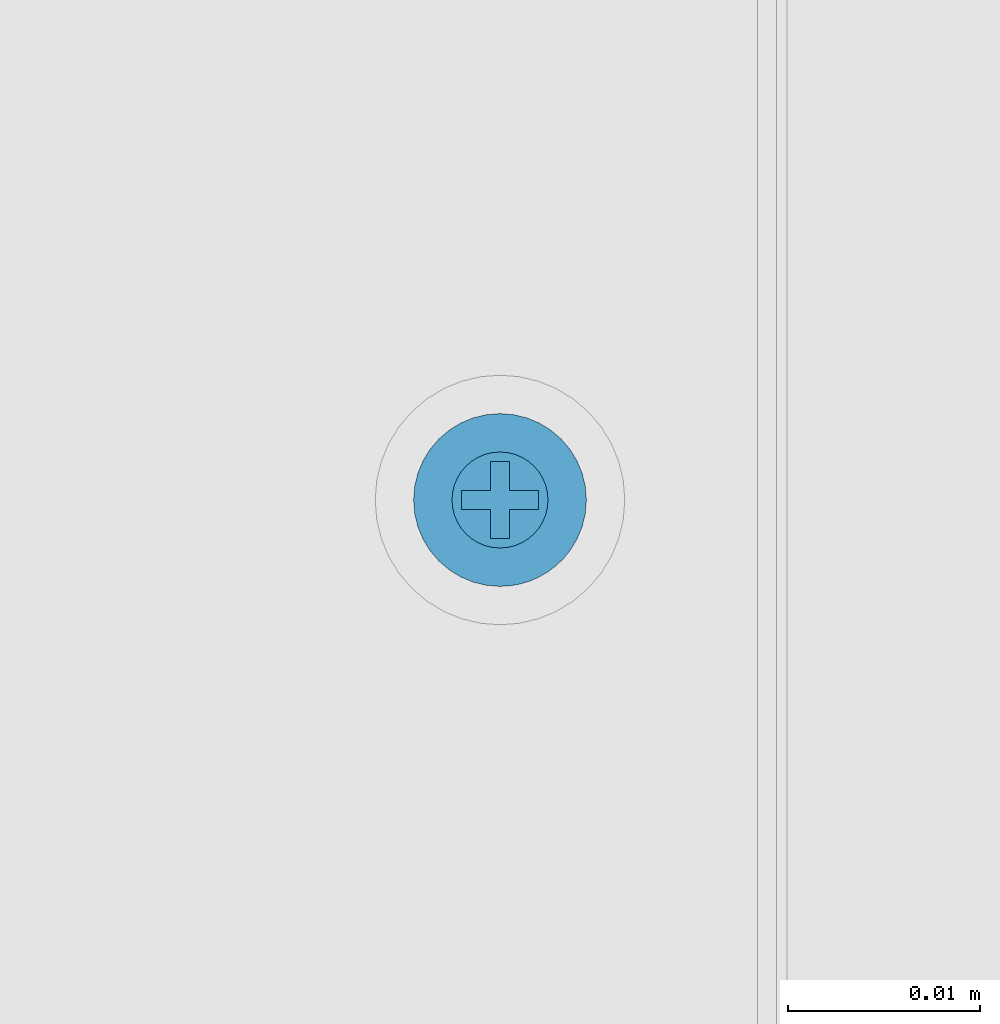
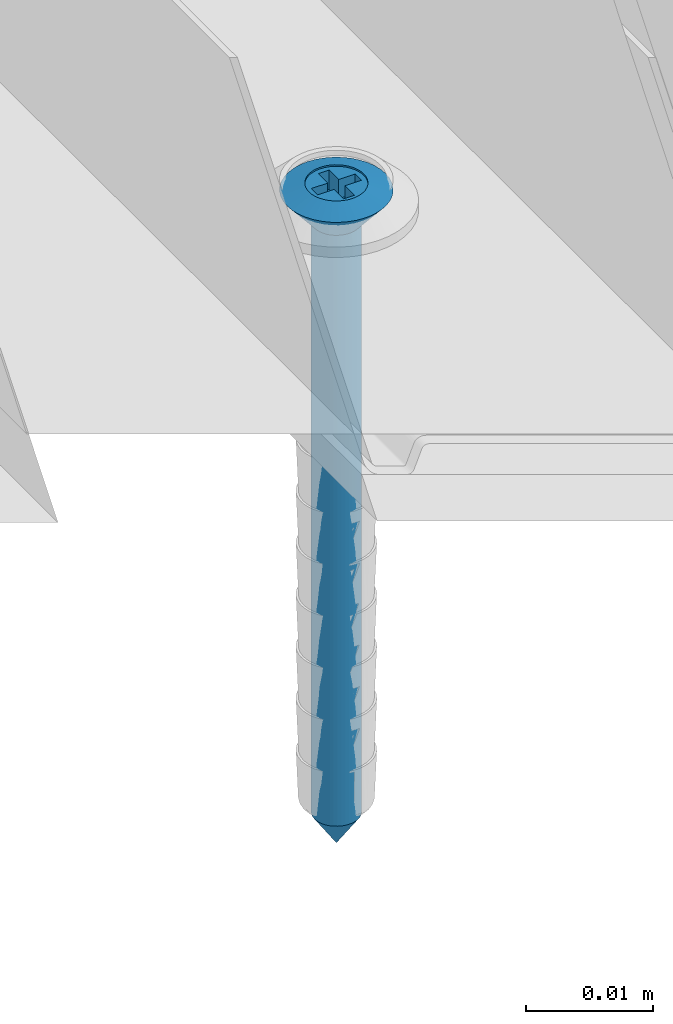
# One storey, part 27 of 56: 1 wall.
"""IFC2X3 building model written with IfcOpenShell, lengths in millimetres."""

from ifc_helpers import new_model, entity, si_unit, converted_unit, direction, frame, origin, origin_with_axes, place, context, project, spatial, faceted_brep, element, save


model = new_model("IFC2X3")

# Units and contexts
model_context = context("Model", 3, precision=1e-05, world=origin(), true_north=direction((0.0, 1.0, 0.0)))
ifc_project = project(units=[si_unit("LENGTHUNIT", "METRE", prefix="MILLI"), si_unit("AREAUNIT", "SQUARE_METRE"), si_unit("VOLUMEUNIT", "CUBIC_METRE"), converted_unit("PLANEANGLEUNIT", "DEGREE", entity("IfcPlaneAngleMeasure", 0.01745), si_unit("PLANEANGLEUNIT", "RADIAN"), dimensions=[0, 0, 0, 0, 0, 0, 0]), si_unit("SOLIDANGLEUNIT", "STERADIAN"), si_unit("MASSUNIT", "GRAM"), si_unit("TIMEUNIT", "SECOND"), si_unit("THERMODYNAMICTEMPERATUREUNIT", "DEGREE_CELSIUS"), si_unit("LUMINOUSINTENSITYUNIT", "LUMEN")], contexts=[model_context])

# Site, building, storey
site_placement = place(None, origin_with_axes())
site = spatial("IfcSite", under=ifc_project, at=site_placement, Name="Default Site", CompositionType="ELEMENT")
building_placement = place(site_placement, origin_with_axes())
building = spatial("IfcBuilding", under=site, at=building_placement, Name="Default Building", CompositionType="ELEMENT")
storey_placement = place(building_placement, origin_with_axes())
storey = spatial("IfcBuildingStorey", under=building, at=storey_placement, Name="Default Building Storey", CompositionType="ELEMENT", Elevation=0.0)

# Wall
wall_placement = place(storey_placement, frame((2345.823797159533, 6256.123979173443, 10.38402578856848), z_axis=(-7.620176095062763e-14, -6.858158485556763e-13, 1.0), x_axis=(-1.0, -9.71445146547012e-17, -7.620176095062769e-14)))
element("IfcWall", 1, at=wall_placement, inside=storey, Name="Kołek rozporowy min. fi 6", context=model_context, shape_type="Brep", body=[
    faceted_brep([(-1438.31414949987, 3453.283223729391, -0.4642567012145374), (-1435.814149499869, 3453.283223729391, -3.464256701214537), (-1435.78952618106, 3452.97035479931, -3.464256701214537), (-1438.258747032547, 3452.57926863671, -0.4642567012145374), (-1435.71626253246, 3452.665189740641, -3.464256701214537), (-1438.093903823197, 3451.892647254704, -0.4642567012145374), (-1435.596162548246, 3452.375242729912, -3.464256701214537), (-1437.823678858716, 3451.240266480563, -0.4642567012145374), (-1435.432183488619, 3452.107653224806, -3.464256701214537), (-1437.454725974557, 3450.638190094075, -0.4642567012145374), (-1435.228363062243, 3451.869010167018, -3.464256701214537), (-1436.996130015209, 3450.101243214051, -0.4642567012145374), (-1434.989720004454, 3451.665189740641, -3.464256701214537), (-1436.459183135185, 3449.642647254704, -0.4642567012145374), (-1434.722130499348, 3451.501210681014, -3.464256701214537), (-1435.857106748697, 3449.273694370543, -0.4642567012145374), (-1434.432183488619, 3451.381110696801, -3.464256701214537), (-1435.204725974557, 3449.003469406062, -0.4642567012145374), (-1434.12701842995, 3451.307847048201, -3.464256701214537), (-1434.51810459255, 3448.838626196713, -0.4642567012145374), (-1433.814149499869, 3451.283223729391, -3.464256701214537), (-1433.814149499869, 3448.783223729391, -0.4642567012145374), (-1433.501280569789, 3451.307847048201, -3.464256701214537), (-1433.110194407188, 3448.838626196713, -0.4642567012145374), (-1433.19611551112, 3451.381110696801, -3.464256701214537), (-1432.423573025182, 3449.003469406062, -0.4642567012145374), (-1432.906168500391, 3451.501210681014, -3.464256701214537), (-1431.771192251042, 3449.273694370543, -0.4642567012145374), (-1432.638578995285, 3451.665189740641, -3.464256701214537), (-1431.169115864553, 3449.642647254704, -0.4642567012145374), (-1432.399935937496, 3451.869010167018, -3.464256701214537), (-1430.63216898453, 3450.101243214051, -0.4642567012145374), (-1432.196115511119, 3452.107653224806, -3.464256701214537), (-1430.173573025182, 3450.638190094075, -0.4642567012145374), (-1432.032136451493, 3452.375242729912, -3.464256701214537), (-1429.804620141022, 3451.240266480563, -0.4642567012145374), (-1431.912036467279, 3452.665189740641, -3.464256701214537), (-1429.534395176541, 3451.892647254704, -0.4642567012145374), (-1431.838772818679, 3453.596092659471, -3.464256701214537), (-1429.369551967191, 3453.987178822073, -0.4642567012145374), (-1429.314149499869, 3453.283223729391, -0.4642567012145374), (-1431.81414949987, 3453.283223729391, -3.464256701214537), (-1429.369551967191, 3452.57926863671, -0.4642567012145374), (-1431.838772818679, 3452.97035479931, -3.464256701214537), (-1431.912036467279, 3453.901257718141, -3.464256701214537), (-1429.534395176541, 3454.673800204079, -0.4642567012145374), (-1432.032136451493, 3454.19120472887, -3.464256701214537), (-1429.804620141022, 3455.326180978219, -0.4642567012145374), (-1432.196115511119, 3454.458794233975, -3.464256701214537), (-1430.173573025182, 3455.928257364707, -0.4642567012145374), (-1432.399935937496, 3454.697437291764, -3.464256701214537), (-1430.63216898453, 3456.465204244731, -0.4642567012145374), (-1432.638578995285, 3454.901257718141, -3.464256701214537), (-1431.169115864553, 3456.923800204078, -0.4642567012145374), (-1432.906168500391, 3455.065236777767, -3.464256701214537), (-1431.771192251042, 3457.292753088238, -0.4642567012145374), (-1433.19611551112, 3455.185336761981, -3.464256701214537), (-1432.423573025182, 3457.562978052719, -0.4642567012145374), (-1433.501280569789, 3455.258600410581, -3.464256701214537), (-1433.110194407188, 3457.727821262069, -0.4642567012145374), (-1433.814149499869, 3455.283223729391, -3.464256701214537), (-1433.814149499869, 3457.783223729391, -0.4642567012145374), (-1434.34306778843, 3457.752031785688, -0.4642567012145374), (-1434.12701842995, 3455.258600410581, -3.464256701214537), (-1434.432183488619, 3455.185336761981, -3.464256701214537), (-1434.864653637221, 3457.658888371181, -0.4642567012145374), (-1435.371676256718, 3457.505084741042, -0.4642567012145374), (-1434.722130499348, 3455.065236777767, -3.464256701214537), (-1435.857106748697, 3457.292753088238, -0.4642567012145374), (-1434.989720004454, 3454.901257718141, -3.464256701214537), (-1435.228363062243, 3454.697437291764, -3.464256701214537), (-1436.314215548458, 3457.024836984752, -0.4642567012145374), (-1436.736665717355, 3456.705050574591, -0.4642567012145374), (-1437.11860079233, 3456.337827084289, -0.4642567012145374), (-1437.454725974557, 3455.928257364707, -0.4642567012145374), (-1435.432183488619, 3454.458794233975, -3.464256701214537), (-1435.596162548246, 3454.19120472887, -3.464256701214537), (-1437.823678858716, 3455.326180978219, -0.4642567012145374), (-1435.71626253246, 3453.901257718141, -3.464256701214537), (-1438.093903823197, 3454.673800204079, -0.4642567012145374), (-1435.78952618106, 3453.596092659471, -3.464256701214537), (-1438.258747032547, 3453.987178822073, -0.4642567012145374), (-1434.205235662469, 3455.752444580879, 0.2007375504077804), (-1433.814149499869, 3455.78322372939, 0.2007375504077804), (-1434.586691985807, 3455.660865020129, 0.2007375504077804), (-1434.949125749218, 3455.510740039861, 0.2007375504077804), (-1435.283612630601, 3455.305766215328, 0.2007375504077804), (-1435.581916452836, 3455.050990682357, 0.2007375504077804), (-1435.836691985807, 3454.752686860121, 0.2007375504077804), (-1436.04166581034, 3454.41819997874, 0.2007375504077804), (-1436.191790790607, 3454.055766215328, 0.2007375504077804), (-1436.283370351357, 3453.674309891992, 0.2007375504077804), (-1436.314149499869, 3453.283223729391, 0.2007375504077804), (-1436.283370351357, 3452.892137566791, 0.2007375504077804), (-1436.191790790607, 3452.510681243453, 0.2007375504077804), (-1436.04166581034, 3452.148247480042, 0.2007375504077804), (-1435.836691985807, 3451.81376059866, 0.200737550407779), (-1435.581916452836, 3451.515456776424, 0.2007375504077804), (-1435.283612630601, 3451.260681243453, 0.2007375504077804), (-1434.949125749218, 3451.05570741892, 0.2007375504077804), (-1434.586691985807, 3450.905582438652, 0.2007375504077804), (-1433.423063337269, 3450.814002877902, 0.2007375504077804), (-1433.814149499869, 3450.783223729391, 0.2007375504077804), (-1434.205235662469, 3450.814002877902, 0.2007375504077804), (-1433.041607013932, 3450.905582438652, 0.2007375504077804), (-1432.67917325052, 3451.05570741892, 0.2007375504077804), (-1432.344686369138, 3451.260681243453, 0.2007375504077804), (-1432.046382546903, 3451.515456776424, 0.2007375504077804), (-1431.791607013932, 3451.81376059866, 0.2007375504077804), (-1431.586633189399, 3452.148247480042, 0.2007375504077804), (-1431.436508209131, 3452.510681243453, 0.2007375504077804), (-1431.344928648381, 3452.892137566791, 0.2007375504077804), (-1431.314149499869, 3453.283223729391, 0.2007375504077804), (-1431.344928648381, 3453.674309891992, 0.2007375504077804), (-1431.436508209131, 3454.055766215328, 0.2007375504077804), (-1431.586633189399, 3454.41819997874, 0.2007375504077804), (-1431.791607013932, 3454.752686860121, 0.2007375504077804), (-1432.046382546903, 3455.050990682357, 0.2007375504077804), (-1432.344686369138, 3455.305766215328, 0.2007375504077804), (-1432.67917325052, 3455.510740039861, 0.2007375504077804), (-1433.041607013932, 3455.660865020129, 0.2007375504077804), (-1433.423063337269, 3455.752444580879, 0.2007375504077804), (-1433.814149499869, 3453.283223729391, -63.46425670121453), (-1435.789526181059, 3452.97035479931, -60.46425670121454), (-1435.814149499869, 3453.283223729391, -60.46425670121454), (-1435.716262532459, 3452.665189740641, -60.46425670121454), (-1435.596162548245, 3452.375242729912, -60.46425670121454), (-1435.432183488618, 3452.107653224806, -60.46425670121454), (-1435.228363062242, 3451.869010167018, -60.46425670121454), (-1434.989720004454, 3451.665189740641, -60.46425670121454), (-1434.722130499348, 3451.501210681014, -60.46425670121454), (-1434.432183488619, 3451.381110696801, -60.46425670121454), (-1434.127018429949, 3451.307847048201, -60.46425670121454), (-1433.814149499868, 3451.283223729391, -60.46425670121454), (-1433.501280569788, 3451.307847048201, -60.46425670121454), (-1433.196115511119, 3451.381110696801, -60.46425670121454), (-1432.90616850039, 3451.501210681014, -60.46425670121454), (-1432.638578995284, 3451.665189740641, -60.46425670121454), (-1432.399935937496, 3451.869010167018, -60.46425670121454), (-1432.196115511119, 3452.107653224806, -60.46425670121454), (-1432.032136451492, 3452.375242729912, -60.46425670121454), (-1431.912036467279, 3452.665189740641, -60.46425670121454), (-1431.838772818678, 3452.97035479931, -60.46425670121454), (-1431.814149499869, 3453.283223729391, -60.46425670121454), (-1431.838772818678, 3453.596092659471, -60.46425670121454), (-1431.912036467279, 3453.901257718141, -60.46425670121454), (-1432.032136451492, 3454.19120472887, -60.46425670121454), (-1432.196115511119, 3454.458794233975, -60.46425670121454), (-1432.399935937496, 3454.697437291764, -60.46425670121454), (-1432.638578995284, 3454.901257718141, -60.46425670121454), (-1432.90616850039, 3455.065236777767, -60.46425670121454), (-1433.196115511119, 3455.185336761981, -60.46425670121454), (-1433.501280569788, 3455.258600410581, -60.46425670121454), (-1433.814149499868, 3455.283223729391, -60.46425670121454), (-1434.127018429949, 3455.258600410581, -60.46425670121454), (-1434.432183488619, 3455.185336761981, -60.46425670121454), (-1434.722130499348, 3455.065236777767, -60.46425670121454), (-1434.989720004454, 3454.901257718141, -60.46425670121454), (-1435.228363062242, 3454.697437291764, -60.46425670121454), (-1435.432183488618, 3454.458794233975, -60.46425670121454), (-1435.596162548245, 3454.19120472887, -60.46425670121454), (-1435.716262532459, 3453.901257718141, -60.46425670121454), (-1435.789526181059, 3453.596092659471, -60.46425670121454), (-1435.814149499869, 3453.783223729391, 0.04999999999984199), (-1436.04166581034, 3454.41819997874, 0.04999999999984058), (-1436.191790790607, 3454.055766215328, 0.04999999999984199), (-1435.814149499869, 3452.783223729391, 0.04999999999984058), (-1434.314149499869, 3453.783223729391, 0.04999999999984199), (-1434.314149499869, 3455.28322372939, 0.04999999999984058), (-1433.314149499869, 3455.28322372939, 0.04999999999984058), (-1433.314149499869, 3453.783223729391, 0.04999999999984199), (-1431.814149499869, 3453.783223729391, 0.04999999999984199), (-1431.814149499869, 3452.783223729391, 0.04999999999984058), (-1433.314149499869, 3452.783223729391, 0.04999999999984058), (-1433.314149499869, 3451.283223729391, 0.04999999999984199), (-1434.314149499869, 3451.283223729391, 0.04999999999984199), (-1434.314149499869, 3452.783223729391, 0.04999999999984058), (-1436.283370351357, 3453.674309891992, 0.04999999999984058), (-1436.314149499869, 3453.283223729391, 0.04999999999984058), (-1436.283370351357, 3452.892137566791, 0.04999999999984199), (-1436.191790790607, 3452.510681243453, 0.04999999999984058), (-1436.04166581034, 3452.148247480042, 0.04999999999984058), (-1435.836691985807, 3451.81376059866, 0.04999999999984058), (-1435.581916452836, 3451.515456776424, 0.04999999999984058), (-1435.283612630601, 3451.260681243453, 0.04999999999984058), (-1434.949125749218, 3451.05570741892, 0.04999999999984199), (-1434.586691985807, 3450.905582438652, 0.04999999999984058), (-1434.205235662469, 3450.814002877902, 0.04999999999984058), (-1433.814149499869, 3450.783223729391, 0.04999999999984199), (-1433.423063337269, 3450.814002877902, 0.04999999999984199), (-1433.041607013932, 3450.905582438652, 0.04999999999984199), (-1432.67917325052, 3451.05570741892, 0.04999999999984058), (-1432.344686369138, 3451.260681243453, 0.04999999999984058), (-1432.046382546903, 3451.515456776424, 0.04999999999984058), (-1431.791607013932, 3451.81376059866, 0.04999999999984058), (-1431.586633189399, 3452.148247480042, 0.04999999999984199), (-1431.436508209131, 3452.510681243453, 0.04999999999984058), (-1431.344928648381, 3452.892137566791, 0.04999999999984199), (-1431.314149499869, 3453.283223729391, 0.04999999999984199), (-1431.344928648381, 3453.674309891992, 0.04999999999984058), (-1431.436508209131, 3454.055766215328, 0.04999999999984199), (-1431.586633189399, 3454.41819997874, 0.04999999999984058), (-1431.791607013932, 3454.752686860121, 0.04999999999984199), (-1432.046382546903, 3455.050990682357, 0.04999999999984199), (-1432.344686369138, 3455.305766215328, 0.04999999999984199), (-1432.67917325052, 3455.510740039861, 0.04999999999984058), (-1433.041607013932, 3455.660865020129, 0.04999999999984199), (-1433.423063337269, 3455.752444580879, 0.04999999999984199), (-1433.814149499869, 3455.78322372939, 0.04999999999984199), (-1434.205235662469, 3455.752444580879, 0.04999999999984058), (-1434.586691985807, 3455.660865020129, 0.04999999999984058), (-1434.949125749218, 3455.510740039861, 0.04999999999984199), (-1435.283612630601, 3455.305766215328, 0.04999999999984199), (-1435.581916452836, 3455.050990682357, 0.04999999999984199), (-1435.836691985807, 3454.752686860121, 0.04999999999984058), (-1434.314149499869, 3452.783223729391, -1.79926244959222), (-1434.314149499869, 3451.283223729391, -1.799262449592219), (-1433.314149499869, 3451.283223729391, -1.799262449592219), (-1433.314149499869, 3452.783223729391, -1.79926244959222), (-1431.81414949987, 3452.783223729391, -1.79926244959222), (-1431.81414949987, 3453.783223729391, -1.799262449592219), (-1433.314149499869, 3453.783223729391, -1.799262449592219), (-1433.314149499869, 3455.28322372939, -1.79926244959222), (-1434.314149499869, 3455.28322372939, -1.79926244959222), (-1434.314149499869, 3453.783223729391, -1.799262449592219), (-1435.814149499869, 3453.783223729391, -1.799262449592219), (-1435.814149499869, 3452.783223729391, -1.79926244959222)], [[[0, 1, 2, 3]], [[4, 5, 3, 2]], [[6, 7, 5, 4]], [[7, 6, 8, 9]], [[10, 11, 9, 8]], [[11, 10, 12, 13]], [[14, 15, 13, 12]], [[16, 17, 15, 14]], [[17, 16, 18, 19]], [[20, 21, 19, 18]], [[21, 20, 22, 23]], [[24, 25, 23, 22]], [[26, 27, 25, 24]], [[27, 26, 28, 29]], [[30, 31, 29, 28]], [[31, 30, 32, 33]], [[34, 35, 33, 32]], [[36, 37, 35, 34]], [[38, 39, 40, 41]], [[41, 40, 42, 43]], [[37, 36, 43, 42]], [[44, 45, 39, 38]], [[46, 47, 45, 44]], [[47, 46, 48, 49]], [[50, 51, 49, 48]], [[51, 50, 52, 53]], [[54, 55, 53, 52]], [[56, 57, 55, 54]], [[57, 56, 58, 59]], [[60, 61, 59, 58]], [[62, 61, 63]], [[61, 60, 63]], [[63, 64, 62]], [[64, 65, 62]], [[66, 65, 64]], [[64, 67, 66]], [[67, 68, 66]], [[69, 70, 71]], [[70, 72, 71]], [[71, 68, 69]], [[68, 67, 69]], [[70, 73, 72]], [[74, 73, 75]], [[73, 70, 75]], [[76, 77, 74, 75]], [[78, 79, 77, 76]], [[79, 78, 80, 81]], [[1, 0, 81, 80]], [[82, 83, 62]], [[83, 61, 62]], [[62, 65, 82]], [[65, 84, 82]], [[66, 68, 84]], [[68, 85, 84]], [[84, 65, 66]], [[86, 85, 71]], [[85, 68, 71]], [[72, 73, 87]], [[87, 86, 72]], [[86, 71, 72]], [[88, 87, 74]], [[87, 73, 74]], [[77, 89, 88, 74]], [[79, 90, 89, 77]], [[90, 79, 81, 91]], [[0, 92, 91, 81]], [[92, 0, 3, 93]], [[5, 94, 93, 3]], [[7, 95, 94, 5]], [[95, 7, 9, 96]], [[11, 97, 96, 9]], [[97, 11, 13, 98]], [[15, 99, 98, 13]], [[17, 100, 99, 15]], [[23, 101, 102, 21]], [[21, 102, 103, 19]], [[100, 17, 19, 103]], [[25, 104, 101, 23]], [[27, 105, 104, 25]], [[105, 27, 29, 106]], [[31, 107, 106, 29]], [[107, 31, 33, 108]], [[35, 109, 108, 33]], [[37, 110, 109, 35]], [[110, 37, 42, 111]], [[40, 112, 111, 42]], [[112, 40, 39, 113]], [[45, 114, 113, 39]], [[47, 115, 114, 45]], [[115, 47, 49, 116]], [[51, 117, 116, 49]], [[117, 51, 53, 118]], [[55, 119, 118, 53]], [[57, 120, 119, 55]], [[120, 57, 59, 121]], [[61, 83, 121, 59]], [[122, 123, 124]], [[122, 125, 123]], [[122, 126, 125]], [[127, 126, 122]], [[122, 128, 127]], [[129, 128, 122]], [[122, 130, 129]], [[122, 131, 130]], [[132, 131, 122]], [[122, 133, 132]], [[134, 133, 122]], [[122, 135, 134]], [[122, 136, 135]], [[137, 136, 122]], [[122, 138, 137]], [[139, 138, 122]], [[122, 140, 139]], [[122, 141, 140]], [[142, 141, 122]], [[122, 143, 142]], [[144, 143, 122]], [[122, 145, 144]], [[122, 146, 145]], [[147, 146, 122]], [[122, 148, 147]], [[149, 148, 122]], [[122, 150, 149]], [[122, 151, 150]], [[152, 151, 122]], [[122, 153, 152]], [[154, 153, 122]], [[122, 155, 154]], [[122, 156, 155]], [[157, 156, 122]], [[122, 158, 157]], [[159, 158, 122]], [[122, 160, 159]], [[122, 161, 160]], [[162, 161, 122]], [[124, 162, 122]], [[1, 124, 123, 2]], [[125, 4, 2, 123]], [[126, 6, 4, 125]], [[6, 126, 127, 8]], [[128, 10, 8, 127]], [[10, 128, 129, 12]], [[130, 14, 12, 129]], [[131, 16, 14, 130]], [[16, 131, 132, 18]], [[133, 20, 18, 132]], [[20, 133, 134, 22]], [[135, 24, 22, 134]], [[136, 26, 24, 135]], [[26, 136, 137, 28]], [[138, 30, 28, 137]], [[30, 138, 139, 32]], [[140, 34, 32, 139]], [[141, 36, 34, 140]], [[144, 38, 41, 143]], [[143, 41, 43, 142]], [[36, 141, 142, 43]], [[145, 44, 38, 144]], [[146, 46, 44, 145]], [[46, 146, 147, 48]], [[148, 50, 48, 147]], [[50, 148, 149, 52]], [[150, 54, 52, 149]], [[151, 56, 54, 150]], [[56, 151, 152, 58]], [[153, 60, 58, 152]], [[60, 153, 154, 63]], [[155, 64, 63, 154]], [[156, 67, 64, 155]], [[67, 156, 157, 69]], [[158, 70, 69, 157]], [[70, 158, 159, 75]], [[160, 76, 75, 159]], [[161, 78, 76, 160]], [[78, 161, 162, 80]], [[124, 1, 80, 162]], [[163, 164, 165, 166]], [[163, 167, 168, 169, 170, 171, 172, 173, 174, 175, 176, 166, 165, 177, 178, 179, 180, 181, 182, 183, 184, 185, 186, 187, 188, 189, 190, 191, 192, 193, 194, 195, 196, 197, 198, 199, 200, 201, 202, 203, 204, 205, 206, 207, 208, 209, 210, 211, 212, 213, 214, 164]], [[199, 198, 112, 113]], [[113, 114, 200, 199]], [[114, 115, 201, 200]], [[202, 201, 115, 116]], [[116, 117, 203, 202]], [[204, 203, 117, 118]], [[118, 119, 205, 204]], [[119, 120, 206, 205]], [[207, 206, 120, 121]], [[121, 83, 208, 207]], [[209, 208, 83, 82]], [[82, 84, 210, 209]], [[84, 85, 211, 210]], [[212, 211, 85, 86]], [[86, 87, 213, 212]], [[214, 213, 87, 88]], [[88, 89, 164, 214]], [[89, 90, 165, 164]], [[92, 93, 179, 178]], [[91, 92, 178, 177]], [[177, 165, 90, 91]], [[93, 94, 180, 179]], [[94, 95, 181, 180]], [[182, 181, 95, 96]], [[96, 97, 183, 182]], [[184, 183, 97, 98]], [[98, 99, 185, 184]], [[99, 100, 186, 185]], [[187, 186, 100, 103]], [[103, 102, 188, 187]], [[189, 188, 102, 101]], [[101, 104, 190, 189]], [[104, 105, 191, 190]], [[192, 191, 105, 106]], [[106, 107, 193, 192]], [[194, 193, 107, 108]], [[108, 109, 195, 194]], [[109, 110, 196, 195]], [[197, 196, 110, 111]], [[111, 112, 198, 197]], [[215, 216, 217, 218, 219, 220, 221, 222, 223, 224, 225, 226]], [[216, 175, 174, 217]], [[215, 176, 175, 216]], [[226, 166, 176, 215]], [[225, 163, 166, 226]], [[224, 167, 163, 225]], [[223, 168, 167, 224]], [[222, 169, 168, 223]], [[221, 170, 169, 222]], [[220, 171, 170, 221]], [[219, 172, 171, 220]], [[218, 173, 172, 219]], [[217, 174, 173, 218]]]),
])

save(model, "model.ifc")
